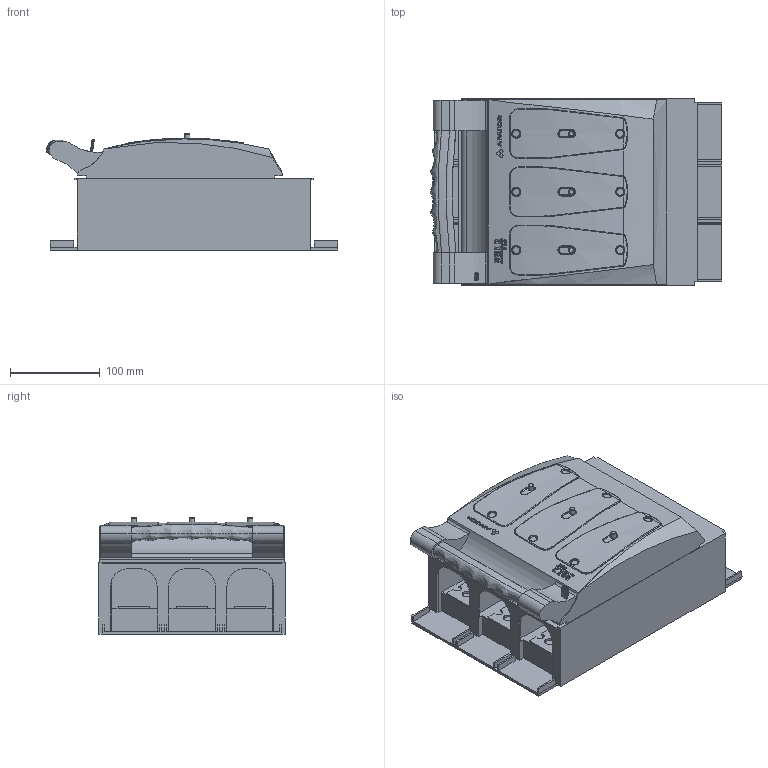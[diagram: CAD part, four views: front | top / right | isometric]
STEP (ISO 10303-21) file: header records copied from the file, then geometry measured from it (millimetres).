
FILE_DESCRIPTION(/* description */ (''),/* implementation_level */ '2;1');
FILE_NAME(/* name */ 'RBK 2 pro-VD-M - 63-811685-204.stp',/* time_stamp */ '2019-03-11T11:29:55+01:00',/* author */ (''),/* organization */ (''),/* preprocessor_version */ 'ST-DEVELOPER v16',/* originating_system */ 'SIEMENS PLM Software NX 10.0',/* authorisation */ '');
FILE_SCHEMA (('AUTOMOTIVE_DESIGN { 1 0 10303 214 3 1 1 1 }'));
Products named in the file (1): 710_115086EF6xxd
Bounding box: 325.32 x 208 x 129.8 mm (x, y, z)
Volume: 5254576.3 mm3; surface area: 376167.8 mm2
Topology: 1 solids, 1 shells, 1567 faces, 4354 edges, 2815 vertices
Faces by surface type: plane 1077, bspline 241, cylinder 136, extrusion 95, cone 9, torus 9
Full cylindrical faces by diameter (mm): 6 x3, 11 x3
Entity records: 71863 total; most frequent: CARTESIAN_POINT 22578, ORIENTED_EDGE 8584, DIRECTION 7748, EDGE_CURVE 4292, AXIS2_PLACEMENT_3D 2800, VERTEX_POINT 2798, VECTOR 2148, LINE 2053
